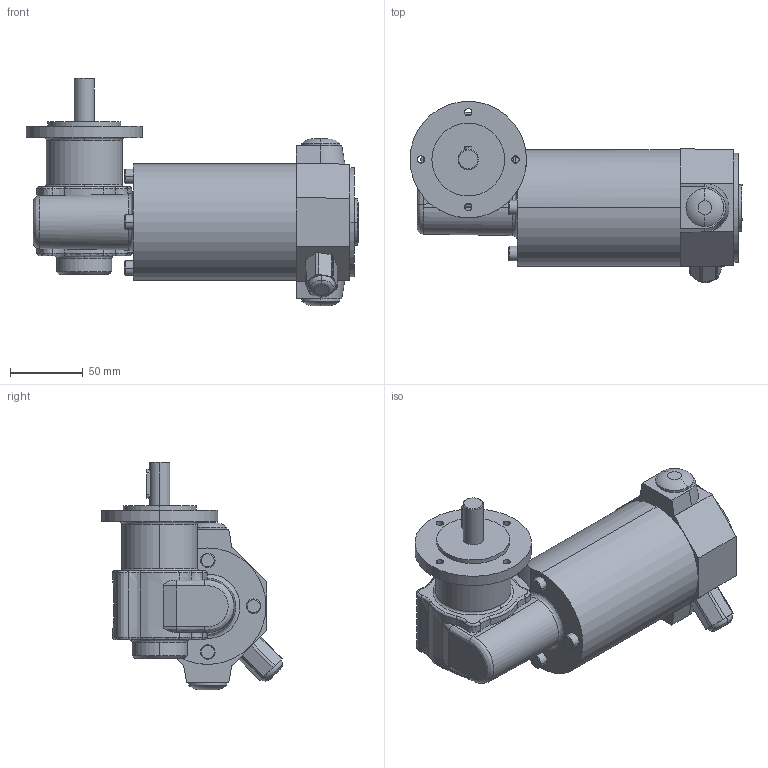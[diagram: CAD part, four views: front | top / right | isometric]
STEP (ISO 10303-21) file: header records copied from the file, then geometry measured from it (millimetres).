
FILE_DESCRIPTION(('OneSpaceDesigner STEP Export'),'2;1');
FILE_NAME('EPG12_GF132-10.stp','2008-07-10T 8:08:22',(''),(''),'OneSpace Designer STEP processor (Jan. 2003) for AP214(CD)(Solid Model)','OneSpace Designer 12.01D 09-Jul-2004 (C) CoCreate Software GmbH','');
FILE_SCHEMA(('AUTOMOTIVE_DESIGN_CC2 {1 2 10303 214 -1 1 5 1}'));
Length unit declared in the file: millimetre
Products named in the file (2): EPG12_GF132-10
Assembly tree (1 placements, depth 2):
  EPG12_GF132-10
    EPG12_GF132-10
Bounding box: 228 x 124.4 x 156.5 mm (x, y, z)
Volume: 1172393.6 mm3; surface area: 88866.9 mm2
Topology: 1 solids, 1 shells, 190 faces, 476 edges, 304 vertices
Faces by surface type: plane 52, cylinder 48, bspline 41, extrusion 25, torus 14, cone 10
Entity records: 16380 total; most frequent: CARTESIAN_POINT 12561, ORIENTED_EDGE 952, DIRECTION 508, EDGE_CURVE 476, VERTEX_POINT 304, EDGE_LOOP 214, FACE_OUTER_BOUND 190, ADVANCED_FACE 190
